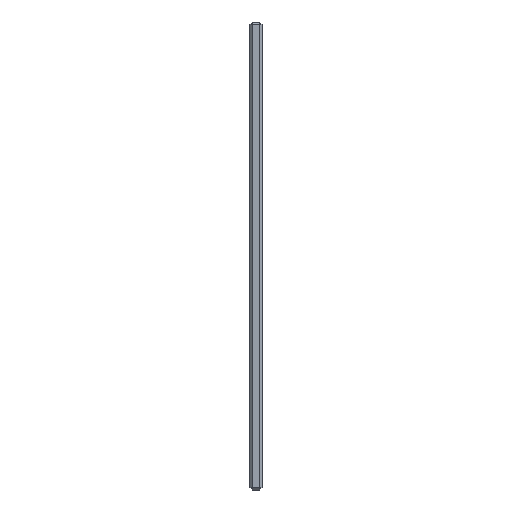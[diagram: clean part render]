
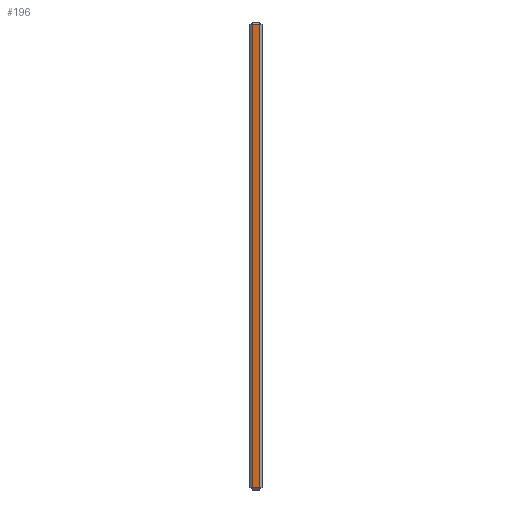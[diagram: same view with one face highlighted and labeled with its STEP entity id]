
A CAD part, left-side view. The second image highlights one B-rep face of the part: STEP entity #196.
In plain terms, the highlighted planar face has unit normal (-1, 0, 0).
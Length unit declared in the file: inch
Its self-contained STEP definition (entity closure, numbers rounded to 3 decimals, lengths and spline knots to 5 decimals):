
#5 = VERTEX_POINT ( 'NONE', #414 ) ;
#40 = CARTESIAN_POINT ( 'NONE',  ( -5.875, 0.25, 4.825 ) ) ;
#56 = EDGE_CURVE ( 'NONE', #5, #773, #834, .T. ) ;
#67 = EDGE_LOOP ( 'NONE', ( #444, #731, #112, #1686 ) ) ;
#112 = ORIENTED_EDGE ( 'NONE', *, *, #56, .T. ) ;
#196 = ADVANCED_FACE ( 'Placement Plane', ( #789 ), #1284, .F. ) ;
#229 = LINE ( 'NONE', #40, #370 ) ;
#351 = AXIS2_PLACEMENT_3D ( 'NONE', #725, #1551, #719 ) ;
#370 = VECTOR ( 'NONE', #976, 39.37008 ) ;
#414 = CARTESIAN_POINT ( 'NONE',  ( -5.875, 0.05, -4.825 ) ) ;
#444 = ORIENTED_EDGE ( 'NONE', *, *, #1536, .T. ) ;
#499 = CARTESIAN_POINT ( 'NONE',  ( -5.875, 0.05, 4.825 ) ) ;
#503 = EDGE_CURVE ( 'NONE', #773, #644, #229, .T. ) ;
#538 = CARTESIAN_POINT ( 'NONE',  ( -5.875, 0.2, -4.875 ) ) ;
#629 = VERTEX_POINT ( 'NONE', #1690 ) ;
#644 = VERTEX_POINT ( 'NONE', #732 ) ;
#719 = DIRECTION ( 'NONE',  ( 0., 0., -1. ) ) ;
#725 = CARTESIAN_POINT ( 'NONE',  ( -5.875, 0.25, -4.875 ) ) ;
#731 = ORIENTED_EDGE ( 'NONE', *, *, #1210, .T. ) ;
#732 = CARTESIAN_POINT ( 'NONE',  ( -5.875, 0.2, 4.825 ) ) ;
#773 = VERTEX_POINT ( 'NONE', #499 ) ;
#789 = FACE_OUTER_BOUND ( 'NONE', #67, .T. ) ;
#834 = LINE ( 'NONE', #1620, #1074 ) ;
#976 = DIRECTION ( 'NONE',  ( 0., 1., 0. ) ) ;
#985 = VECTOR ( 'NONE', #1114, 39.37008 ) ;
#1028 = CARTESIAN_POINT ( 'NONE',  ( -5.875, 0.25, -4.825 ) ) ;
#1050 = LINE ( 'NONE', #1028, #985 ) ;
#1074 = VECTOR ( 'NONE', #1271, 39.37008 ) ;
#1100 = DIRECTION ( 'NONE',  ( 0., 0., -1. ) ) ;
#1114 = DIRECTION ( 'NONE',  ( 0., -1., 0. ) ) ;
#1210 = EDGE_CURVE ( 'NONE', #629, #5, #1050, .T. ) ;
#1271 = DIRECTION ( 'NONE',  ( 0., 0., 1. ) ) ;
#1284 = PLANE ( 'NONE',  #351 ) ;
#1377 = LINE ( 'NONE', #538, #1518 ) ;
#1518 = VECTOR ( 'NONE', #1100, 39.37008 ) ;
#1536 = EDGE_CURVE ( 'NONE', #644, #629, #1377, .T. ) ;
#1551 = DIRECTION ( 'NONE',  ( 1., 0., 0. ) ) ;
#1620 = CARTESIAN_POINT ( 'NONE',  ( -5.875, 0.05, -4.875 ) ) ;
#1686 = ORIENTED_EDGE ( 'NONE', *, *, #503, .T. ) ;
#1690 = CARTESIAN_POINT ( 'NONE',  ( -5.875, 0.2, -4.825 ) ) ;
